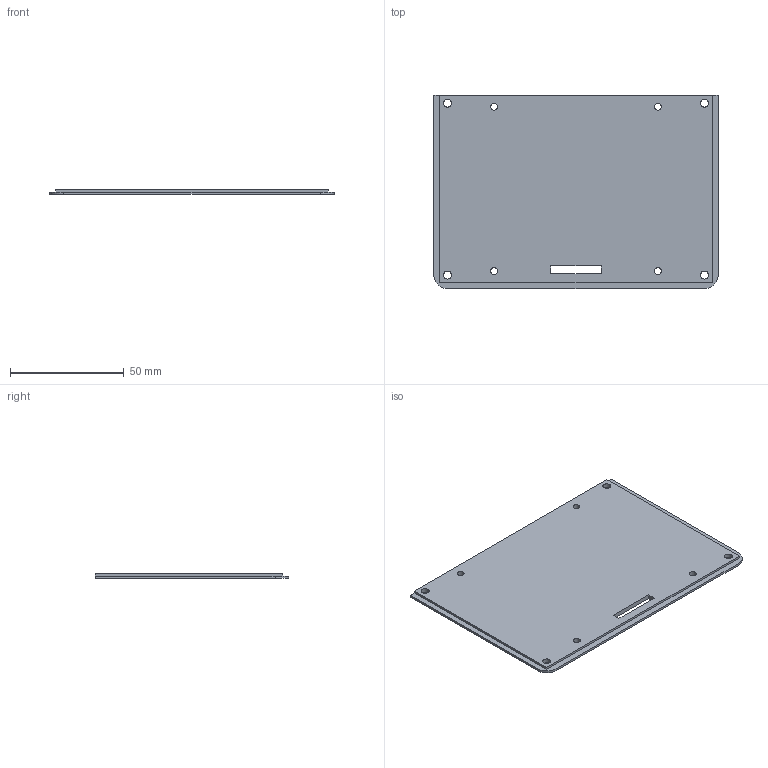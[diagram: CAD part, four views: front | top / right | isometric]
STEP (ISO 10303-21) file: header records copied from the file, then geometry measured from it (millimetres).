
FILE_DESCRIPTION(/* description */ (''),/* implementation_level */ '2;1');
FILE_NAME(/* name */ 'Z:\3D Drucker\Thomas\Spritzenpumpe\Deckel_unten.stp',/* time_stamp */ '2018-09-27T12:44:45+02:00',/* author */ ('Holm'),/* organization */ (''),/* preprocessor_version */ 'ST-DEVELOPER v16.13',/* originating_system */ 'Autodesk Inventor 2018',/* authorisation */ '');
FILE_SCHEMA (('AUTOMOTIVE_DESIGN { 1 0 10303 214 3 1 1 }'));
Length unit declared in the file: millimetre
Products named in the file (1): Deckel_unten
Bounding box: 125 x 85 x 2 mm (x, y, z)
Volume: 20198 mm3; surface area: 22016.4 mm2
Topology: 1 solids, 1 shells, 24 faces, 66 edges, 44 vertices
Faces by surface type: plane 14, cylinder 10
Full cylindrical faces by diameter (mm): 3 x4, 3.5 x4
Entity records: 805 total; most frequent: DIRECTION 128, CARTESIAN_POINT 127, ORIENTED_EDGE 116, EDGE_CURVE 58, EDGE_LOOP 50, AXIS2_PLACEMENT_3D 45, VERTEX_POINT 44, LINE 38
